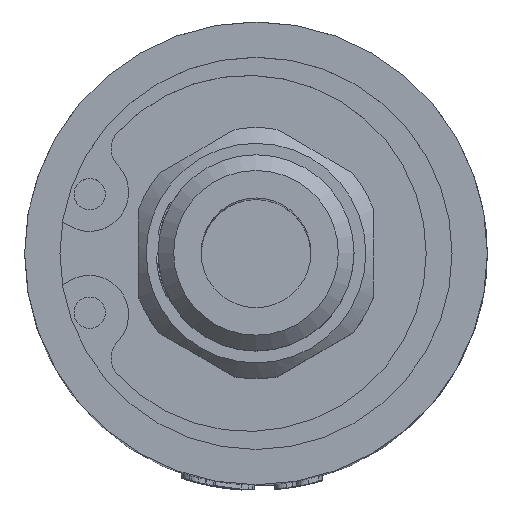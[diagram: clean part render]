
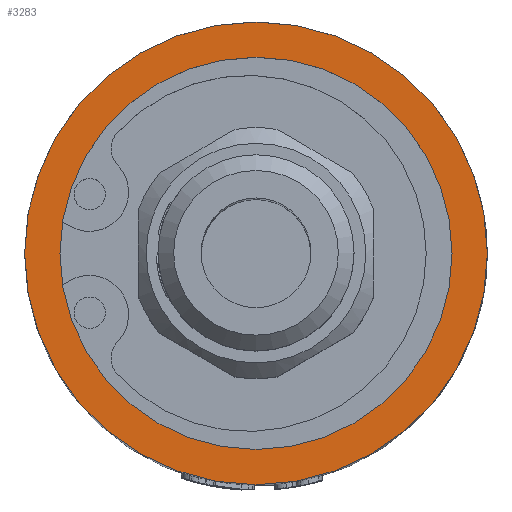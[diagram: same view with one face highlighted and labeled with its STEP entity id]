
A CAD part, top view. The second image highlights one B-rep face of the part: STEP entity #3283.
In plain terms, the highlighted planar face has unit normal (0, 0, 1).
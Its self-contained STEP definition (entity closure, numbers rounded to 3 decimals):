
#221=FACE_BOUND('',#5932,.T.);
#222=FACE_BOUND('',#5933,.T.);
#3283=ADVANCED_FACE('',(#221,#222),#3959,.T.);
#3959=PLANE('',#21257);
#5932=EDGE_LOOP('',(#10235));
#5933=EDGE_LOOP('',(#10236));
#6415=CIRCLE('',#21249,14.75);
#6418=CIRCLE('',#21256,12.5);
#10235=ORIENTED_EDGE('',*,*,#16986,.T.);
#10236=ORIENTED_EDGE('',*,*,#16982,.F.);
#14161=VERTEX_POINT('',#39773);
#14164=VERTEX_POINT('',#39784);
#16982=EDGE_CURVE('',#14161,#14161,#6415,.T.);
#16986=EDGE_CURVE('',#14164,#14164,#6418,.T.);
#21249=AXIS2_PLACEMENT_3D('',#39772,#23253,#23254);
#21256=AXIS2_PLACEMENT_3D('',#39783,#23268,#23269);
#21257=AXIS2_PLACEMENT_3D('',#39785,#23270,#23271);
#23253=DIRECTION('',(0.,0.,-1.));
#23254=DIRECTION('',(1.,0.,0.));
#23268=DIRECTION('',(0.,0.,-1.));
#23269=DIRECTION('',(1.,0.,0.));
#23270=DIRECTION('',(0.,0.,1.));
#23271=DIRECTION('',(1.,0.,0.));
#39772=CARTESIAN_POINT('',(0.,0.,44.5));
#39773=CARTESIAN_POINT('',(14.75,0.,44.5));
#39783=CARTESIAN_POINT('',(0.,0.,44.5));
#39784=CARTESIAN_POINT('',(12.5,0.,44.5));
#39785=CARTESIAN_POINT('',(0.,0.,44.5));
